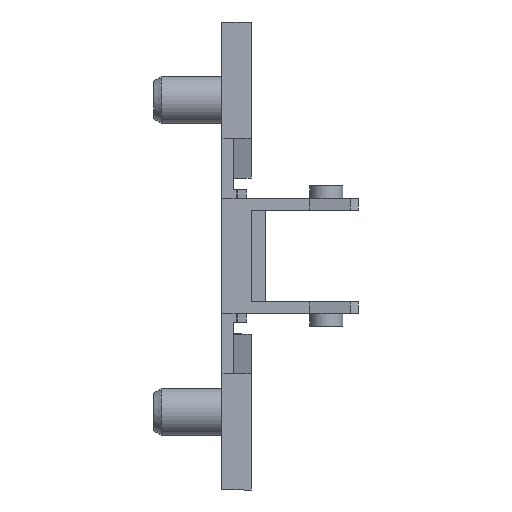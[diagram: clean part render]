
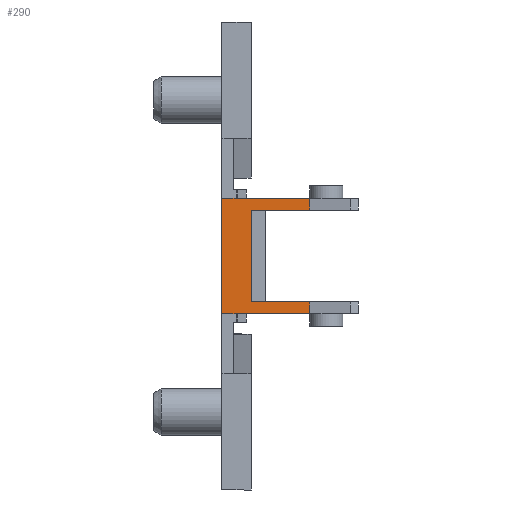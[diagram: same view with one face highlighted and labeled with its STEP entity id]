
A CAD part, front view. The second image highlights one B-rep face of the part: STEP entity #290.
In plain terms, the highlighted planar face has unit normal (0, -1, 0).
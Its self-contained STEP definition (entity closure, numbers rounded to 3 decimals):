
#164 = EDGE_LOOP ( 'NONE', ( #3066, #3065, #3064, #3063, #3062, #3061, #3060, #3059 ) ) ;
#290 = ADVANCED_FACE ( 'NONE', ( #3244 ), #3736, .T. ) ;
#437 = VERTEX_POINT ( 'NONE', #1591 ) ;
#438 = VERTEX_POINT ( 'NONE', #1592 ) ;
#439 = VERTEX_POINT ( 'NONE', #1593 ) ;
#440 = VERTEX_POINT ( 'NONE', #1594 ) ;
#441 = VERTEX_POINT ( 'NONE', #1595 ) ;
#442 = VERTEX_POINT ( 'NONE', #1596 ) ;
#443 = VERTEX_POINT ( 'NONE', #1597 ) ;
#444 = VERTEX_POINT ( 'NONE', #1598 ) ;
#745 = CARTESIAN_POINT ( 'NONE',  ( 1.5, -25.55, -5.9 ) ) ;
#746 = DIRECTION ( 'NONE',  ( 1., 0., 0. ) ) ;
#823 = CARTESIAN_POINT ( 'NONE',  ( 0., -25.55, 15.37 ) ) ;
#824 = DIRECTION ( 'NONE',  ( 0., 0., -1. ) ) ;
#968 = CARTESIAN_POINT ( 'NONE',  ( 3., -25.55, -5.9 ) ) ;
#969 = DIRECTION ( 'NONE',  ( 0., 0., -1. ) ) ;
#1035 = CARTESIAN_POINT ( 'NONE',  ( 9.023, -25.55, 67.733 ) ) ;
#1036 = DIRECTION ( 'NONE',  ( 0., 0., -1. ) ) ;
#1100 = CARTESIAN_POINT ( 'NONE',  ( 14., -25.55, 4.7 ) ) ;
#1101 = DIRECTION ( 'NONE',  ( 1., 0., 0. ) ) ;
#1257 = CARTESIAN_POINT ( 'NONE',  ( 14., -25.55, 5.9 ) ) ;
#1258 = DIRECTION ( 'NONE',  ( -1., 0., 0. ) ) ;
#1591 = CARTESIAN_POINT ( 'NONE',  ( 3., -25.55, 4.7 ) ) ;
#1592 = CARTESIAN_POINT ( 'NONE',  ( 3., -25.55, -4.7 ) ) ;
#1593 = CARTESIAN_POINT ( 'NONE',  ( 9.023, -25.55, 4.7 ) ) ;
#1594 = CARTESIAN_POINT ( 'NONE',  ( 9.023, -25.55, 5.9 ) ) ;
#1595 = CARTESIAN_POINT ( 'NONE',  ( 0., -25.55, 5.9 ) ) ;
#1596 = CARTESIAN_POINT ( 'NONE',  ( 0., -25.55, -5.9 ) ) ;
#1597 = CARTESIAN_POINT ( 'NONE',  ( 9.023, -25.55, -5.9 ) ) ;
#1598 = CARTESIAN_POINT ( 'NONE',  ( 9.023, -25.55, -4.7 ) ) ;
#1877 = CARTESIAN_POINT ( 'NONE',  ( 9.023, -25.55, 67.733 ) ) ;
#1881 = DIRECTION ( 'NONE',  ( 0., 0., -1. ) ) ;
#2003 = CARTESIAN_POINT ( 'NONE',  ( 14., -25.55, -4.7 ) ) ;
#2006 = DIRECTION ( 'NONE',  ( 1., 0., 0. ) ) ;
#2450 = LINE ( 'NONE', #968, #2452 ) ;
#2452 = VECTOR ( 'NONE', #969, 1000. ) ;
#2502 = LINE ( 'NONE', #1035, #2504 ) ;
#2504 = VECTOR ( 'NONE', #1036, 1000. ) ;
#2650 = LINE ( 'NONE', #1100, #2652 ) ;
#2652 = VECTOR ( 'NONE', #1101, 1000. ) ;
#2904 = LINE ( 'NONE', #1257, #2906 ) ;
#2906 = VECTOR ( 'NONE', #1258, 1000. ) ;
#3059 = ORIENTED_EDGE ( 'NONE', *, *, #4172, .F. ) ;
#3060 = ORIENTED_EDGE ( 'NONE', *, *, #4092, .F. ) ;
#3061 = ORIENTED_EDGE ( 'NONE', *, *, #4230, .T. ) ;
#3062 = ORIENTED_EDGE ( 'NONE', *, *, #4289, .T. ) ;
#3063 = ORIENTED_EDGE ( 'NONE', *, *, #4581, .T. ) ;
#3064 = ORIENTED_EDGE ( 'NONE', *, *, #4425, .F. ) ;
#3065 = ORIENTED_EDGE ( 'NONE', *, *, #4471, .T. ) ;
#3066 = ORIENTED_EDGE ( 'NONE', *, *, #4387, .F. ) ;
#3244 = FACE_OUTER_BOUND ( 'NONE', #164, .T. ) ;
#3418 = LINE ( 'NONE', #1877, #3431 ) ;
#3431 = VECTOR ( 'NONE', #1881, 1000. ) ;
#3509 = LINE ( 'NONE', #2003, #3514 ) ;
#3514 = VECTOR ( 'NONE', #2006, 1000. ) ;
#3578 = LINE ( 'NONE', #745, #3579 ) ;
#3579 = VECTOR ( 'NONE', #746, 1000. ) ;
#3636 = LINE ( 'NONE', #823, #3637 ) ;
#3637 = VECTOR ( 'NONE', #824, 1000. ) ;
#3734 = DIRECTION ( 'NONE',  ( -1., 0., 0. ) ) ;
#3736 = PLANE ( 'NONE',  #4117 ) ;
#3827 = DIRECTION ( 'NONE',  ( 0., -1., 0. ) ) ;
#3996 = CARTESIAN_POINT ( 'NONE',  ( 14., -25.55, -5.9 ) ) ;
#4092 = EDGE_CURVE ( 'NONE', #444, #443, #3418, .T. ) ;
#4117 = AXIS2_PLACEMENT_3D ( 'NONE', #3996, #3827, #3734 ) ;
#4172 = EDGE_CURVE ( 'NONE', #438, #444, #3509, .T. ) ;
#4230 = EDGE_CURVE ( 'NONE', #442, #443, #3578, .T. ) ;
#4289 = EDGE_CURVE ( 'NONE', #441, #442, #3636, .T. ) ;
#4387 = EDGE_CURVE ( 'NONE', #437, #438, #2450, .T. ) ;
#4425 = EDGE_CURVE ( 'NONE', #440, #439, #2502, .T. ) ;
#4471 = EDGE_CURVE ( 'NONE', #437, #439, #2650, .T. ) ;
#4581 = EDGE_CURVE ( 'NONE', #440, #441, #2904, .T. ) ;
